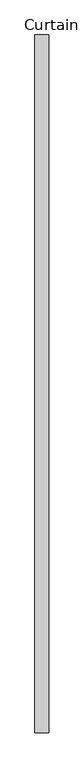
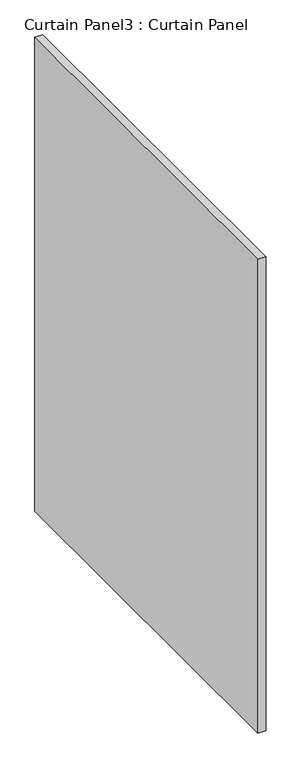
"""IFC4 building model written with IfcOpenShell, lengths in millimetres: plate geometry, Curtain Panel3 : Curtain Panel."""

import ifcopenshell
import ifcopenshell.guid

model = None  # the IFC model being written
_history = None  # IfcOwnerHistory: only IFC2X3 demands one
_inside = {}  # id of a spatial element -> (the spatial element, [elements in it])
_under = {}  # id of a project, library or spatial element -> (it, [spatial elements below it])
_declared = {}  # id of a project -> (the project, [libraries it declares])
_typed = {}  # id of a type object -> (the type object, [elements of that type])
_made_of = {}  # id of a material, layer set ... -> (it, [elements and type objects made of it])


def new_model(schema):
    """Start an empty IFC model of exactly this schema.

    Asked for "IFC4X3", IfcOpenShell would pick the latest addendum, in which some entities
    have other attributes; the version numbers below select the first issue.
    IFC2X3 requires an IfcOwnerHistory on every rooted entity: one is made here for all.
    """
    global model, _history
    if schema == "IFC4X3":
        model = ifcopenshell.file(schema_version=(4, 3, 0, 0))
    else:
        model = ifcopenshell.file(schema=schema)
    _inside.clear()
    _under.clear()
    _declared.clear()
    _typed.clear()
    _made_of.clear()
    _history = None
    if model.schema == "IFC2X3":
        org = make("IfcOrganization", Name="unknown")
        user = make(
            "IfcPersonAndOrganization",
            ThePerson=make("IfcPerson", FamilyName="unknown"),
            TheOrganization=org,
        )
        app = make(
            "IfcApplication",
            ApplicationDeveloper=org,
            Version="unknown",
            ApplicationFullName="unknown",
            ApplicationIdentifier="unknown",
        )
        _history = make(
            "IfcOwnerHistory",
            OwningUser=user,
            OwningApplication=app,
            ChangeAction="ADDED",
            CreationDate=0,
        )
    return model


def make(cls, **values):
    """One entity of the class cls with the attributes given. An attribute that is None is left unset."""
    return model.create_entity(
        cls, **{name: value for name, value in values.items() if value is not None}
    )


def rooted(cls, **values):
    """An entity with a GlobalId (a new one), such as an element, a storey or a relation."""
    return make(cls, GlobalId=ifcopenshell.guid.new(), OwnerHistory=_history, **values)


def si_unit(unit_type, name, prefix=None):
    """IfcSIUnit, for example si_unit("LENGTHUNIT", "METRE", prefix="MILLI")."""
    return make("IfcSIUnit", UnitType=unit_type, Prefix=prefix, Name=name)


def assignment(units):
    """IfcUnitAssignment: the units of a project."""
    return None if units is None else make("IfcUnitAssignment", Units=units)


def point(xyz):
    """IfcCartesianPoint."""
    return None if xyz is None else make("IfcCartesianPoint", Coordinates=xyz)


def direction(xyz):
    """IfcDirection."""
    return None if xyz is None else make("IfcDirection", DirectionRatios=xyz)


def frame(location, z_axis=None, x_axis=None):
    """IfcAxis2Placement3D, a coordinate frame: its origin and axes. An axis left out is left unset."""
    return make(
        "IfcAxis2Placement3D",
        Location=point(location),
        Axis=direction(z_axis),
        RefDirection=direction(x_axis),
    )


def origin():
    """The frame at (0, 0, 0) with its axes left unset."""
    return frame((0.0, 0.0, 0.0))


def place(relative_to, where):
    """IfcLocalPlacement: puts the frame where relative to a parent placement (None: the world)."""
    return make(
        "IfcLocalPlacement", PlacementRelTo=relative_to, RelativePlacement=where
    )


def context(
    kind, dimensions, precision=None, world=None, true_north=None, identifier=None
):
    """IfcGeometricRepresentationContext, for example the 3D "Model" context."""
    return make(
        "IfcGeometricRepresentationContext",
        ContextIdentifier=identifier,
        ContextType=kind,
        CoordinateSpaceDimension=dimensions,
        Precision=precision,
        WorldCoordinateSystem=world,
        TrueNorth=true_north,
    )


def project(units=None, contexts=None):
    """IfcProject with its units and contexts."""
    return rooted(
        "IfcProject",
        Name="project",
        RepresentationContexts=contexts,
        UnitsInContext=assignment(units),
    )


def spatial(cls, under=None, at=None, **own):
    """A site, building, storey or space (cls), placed at a placement, below another one or the project."""
    s = rooted(cls, ObjectPlacement=at, **own)
    if under is not None:
        _under.setdefault(under.id(), (under, []))[1].append(s)
    return s


def polyline(points):
    """IfcPolyline through the points."""
    return make("IfcPolyline", Points=[point(p) for p in points])


def outline(outer, holes=None, kind="AREA"):
    """IfcArbitraryClosedProfileDef: a profile drawn as a closed curve; with holes, ...WithVoids."""
    if holes is None:
        return make("IfcArbitraryClosedProfileDef", ProfileType=kind, OuterCurve=outer)
    return make(
        "IfcArbitraryProfileDefWithVoids",
        ProfileType=kind,
        OuterCurve=outer,
        InnerCurves=holes,
    )


def extrude(swept, where, along, depth):
    """IfcExtrudedAreaSolid: the profile swept, set in the frame where, extruded along a direction by depth."""
    return make(
        "IfcExtrudedAreaSolid",
        SweptArea=swept,
        Position=where,
        ExtrudedDirection=direction(along),
        Depth=depth,
    )


def shape(context_of_items, identifier, shape_type, items):
    """IfcShapeRepresentation: the items that make up one representation, for example the "Body"."""
    return make(
        "IfcShapeRepresentation",
        ContextOfItems=context_of_items,
        RepresentationIdentifier=identifier,
        RepresentationType=shape_type,
        Items=items,
    )


def source(mapping_origin, context_of_items, identifier, shape_type, items):
    """IfcRepresentationMap: a shape defined once, which mapped items show again and again."""
    return make(
        "IfcRepresentationMap",
        MappingOrigin=mapping_origin,
        MappedRepresentation=shape(context_of_items, identifier, shape_type, items),
    )


def transform(
    local_origin,
    x_axis=None,
    y_axis=None,
    z_axis=None,
    scale=None,
    scale2=None,
    scale3=None,
    uniform=True,
):
    """IfcCartesianTransformationOperator3D, or its non-uniform kind. x_axis, y_axis, z_axis: its Axis1, 2, 3."""
    if uniform:
        return make(
            "IfcCartesianTransformationOperator3D",
            Axis1=direction(x_axis),
            Axis2=direction(y_axis),
            LocalOrigin=point(local_origin),
            Scale=scale,
            Axis3=direction(z_axis),
        )
    return make(
        "IfcCartesianTransformationOperator3DnonUniform",
        Axis1=direction(x_axis),
        Axis2=direction(y_axis),
        LocalOrigin=point(local_origin),
        Scale=scale,
        Axis3=direction(z_axis),
        Scale2=scale2,
        Scale3=scale3,
    )


def mapped(mapping_source, mapping_target):
    """IfcMappedItem: shows the shape of a source again, moved by a transform."""
    return make(
        "IfcMappedItem", MappingSource=mapping_source, MappingTarget=mapping_target
    )


def made_of(thing, what):
    """Note that an element or type object is made of a material, layer set ...; save() writes the relation."""
    if what is not None:
        _made_of.setdefault(what.id(), (what, []))[1].append(thing)
    return thing


def element(
    cls,
    number,
    at=None,
    inside=None,
    cuts=None,
    type_object=None,
    material=None,
    context=None,
    identifier="Body",
    shape_type=None,
    held_by="IfcProductDefinitionShape",
    body=None,
    shapes=None,
    **own,
):
    """One element of the class cls, such as IfcWall. Its Tag is "e" and its number.

    at: its placement. inside: the storey or other place that contains it. cuts: it is an
    opening in that element (IfcRelVoidsElement). A single representation is given by context,
    identifier, shape_type and body (its items); several are given by shapes. held_by: the class
    of the entity that holds the representations. save() writes the other relations.
    """
    e = rooted(cls, Tag="e%d" % number, ObjectPlacement=at, **own)
    if body is not None:
        shapes = [shape(context, identifier, shape_type, body)]
    if shapes is not None:
        e.Representation = make(held_by, Representations=shapes)
    if inside is not None:
        _inside.setdefault(inside.id(), (inside, []))[1].append(e)
    if cuts is not None:
        rooted(
            "IfcRelVoidsElement", RelatingBuildingElement=cuts, RelatedOpeningElement=e
        )
    if type_object is not None:
        _typed.setdefault(type_object.id(), (type_object, []))[1].append(e)
    return made_of(e, material)


def aggregate(whole, parts):
    """IfcRelAggregates: a whole, such as a stair, and the parts it consists of."""
    return rooted("IfcRelAggregates", RelatingObject=whole, RelatedObjects=parts)


def save(model, path):
    """Write the relations noted so far, then the file.

    IfcRelAggregates (storeys below a building ...), IfcRelContainedInSpatialStructure (elements
    in a storey), IfcRelDefinesByType, IfcRelAssociatesMaterial and IfcRelDeclares: one each for
    every whole, place, type object, material and project.
    """
    for whole, parts in _under.values():
        aggregate(whole, parts)
    for where, things in _inside.values():
        rooted(
            "IfcRelContainedInSpatialStructure",
            RelatedElements=things,
            RelatingStructure=where,
        )
    for kind, things in _typed.values():
        rooted("IfcRelDefinesByType", RelatedObjects=things, RelatingType=kind)
    for what, things in _made_of.values():
        rooted("IfcRelAssociatesMaterial", RelatedObjects=things, RelatingMaterial=what)
    for by, libraries in _declared.values():
        rooted("IfcRelDeclares", RelatingContext=by, RelatedDefinitions=libraries)
    model.write(path)


def curtain_panel3_curtain_panel_af51f934(model_context):
    return source(origin(), model_context, "Body", "SweptSolid", [
        extrude(outline(polyline([(-28721.5971749, 6428.1494331), (-28721.5971749, 7704.4994331), (-28696.1971749, 7704.4994331), (-28696.1971749, 6428.1494331), (-28721.5971749, 6428.1494331)])), frame((0.0, 0.0, 2514.6), z_axis=(0.0, 0.0, 1.0), x_axis=(1.0, 0.0, 0.0)), (0.0, 0.0, 1.0), 1651.0),
    ])


if __name__ == "__main__":
    model = new_model("IFC4")
    model_context = context("Model", 3, world=origin())
    ifc_project = project(units=[si_unit("LENGTHUNIT", "METRE", prefix="MILLI")], contexts=[model_context])
    site = spatial("IfcSite", under=ifc_project)
    building = spatial("IfcBuilding", under=site)
    placement = place(None, origin())
    curtain_panel3_curtain_panel_shape = curtain_panel3_curtain_panel_af51f934(model_context)
    element("IfcPlate", 1, ObjectType="Curtain Panel3 : Curtain Panel", at=placement, inside=building, context=model_context, shape_type="MappedRepresentation", body=[
        mapped(curtain_panel3_curtain_panel_shape, transform((0.0, 0.0, 0.0), x_axis=(1.0, 0.0, 0.0), y_axis=(0.0, 1.0, 0.0), z_axis=(0.0, 0.0, 1.0))),
    ])
    save(model, "model.ifc")
